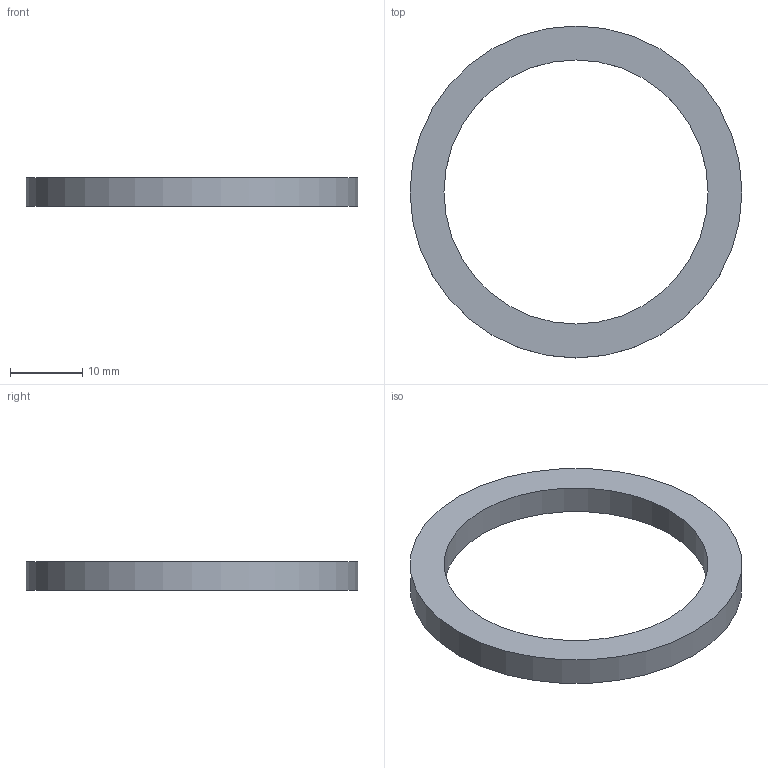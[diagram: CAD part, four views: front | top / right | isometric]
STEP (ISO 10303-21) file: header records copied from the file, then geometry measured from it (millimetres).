
FILE_DESCRIPTION(('Open CASCADE Model'),'2;1');
FILE_NAME('Open CASCADE Shape Model','2026-10-04T02:31:45',('Author'),( 'Open CASCADE'),'Open CASCADE STEP processor 8.0','Open CASCADE 8.0' ,'Unknown');
FILE_SCHEMA(('AUTOMOTIVE_DESIGN { 1 0 10303 214 1 1 1 1 }'));
Length unit declared in the file: millimetre
Products named in the file (1): Open CASCADE STEP translator 8.0 363
Bounding box: 46 x 46 x 4 mm (x, y, z)
Volume: 2439.3 mm3; surface area: 2257.6 mm2
Topology: 1 solids, 1 shells, 4 faces, 6 edges, 4 vertices
Faces by surface type: cylinder 2, plane 2
Full cylindrical faces by diameter (mm): 36.6 x1, 46 x1
Entity records: 186 total; most frequent: DIRECTION 32, CARTESIAN_POINT 27, ORIENTED_EDGE 12, PCURVE 12, DEFINITIONAL_REPRESENTATION 12, LINE 10, VECTOR 10, AXIS2_PLACEMENT_3D 9
